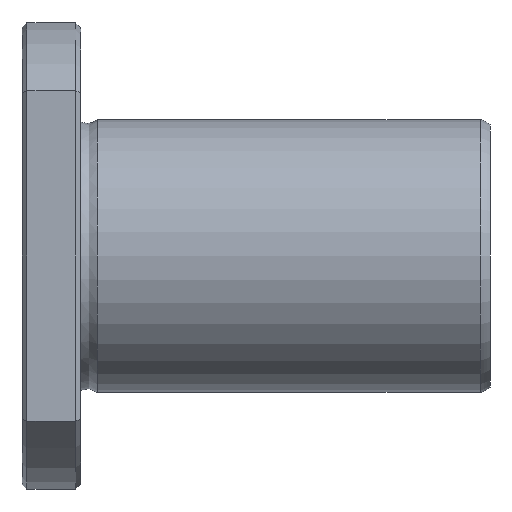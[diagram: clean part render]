
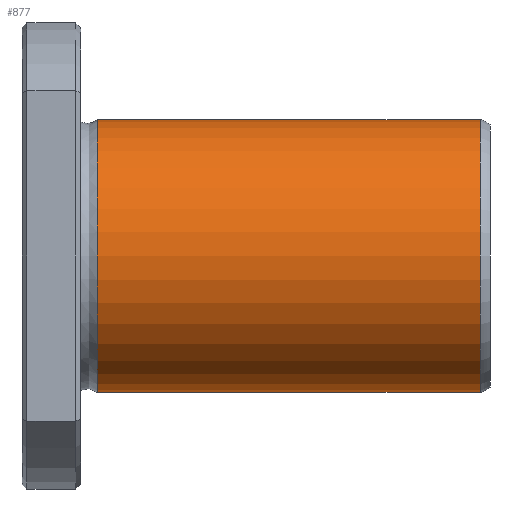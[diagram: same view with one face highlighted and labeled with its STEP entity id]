
A CAD part, front view. The second image highlights one B-rep face of the part: STEP entity #877.
In plain terms, the highlighted cylindrical face has radius 14 mm (diameter 28 mm), a full revolution.
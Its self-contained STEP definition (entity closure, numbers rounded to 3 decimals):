
#843=CARTESIAN_POINT('',(46.999,0.0,14.));
#844=VERTEX_POINT('',#843);
#845=CARTESIAN_POINT('',(46.999,0.0,0.0));
#846=DIRECTION('',(-1.0,0.0,0.0));
#847=DIRECTION('',(0.0,0.0,1.0));
#848=AXIS2_PLACEMENT_3D('',#845,#846,#847);
#849=CIRCLE('',#848,14.);
#850=EDGE_CURVE('',#844,#844,#849,.T.);
#858=CARTESIAN_POINT('',(27.359,0.0,0.0));
#859=DIRECTION('',(-1.0,0.0,0.0));
#860=DIRECTION('',(0.0,0.0,1.0));
#861=AXIS2_PLACEMENT_3D('',#858,#859,#860);
#862=CYLINDRICAL_SURFACE('',#861,14.);
#863=CARTESIAN_POINT('',(7.72,0.0,14.));
#864=VERTEX_POINT('',#863);
#865=CARTESIAN_POINT('',(7.72,0.0,0.0));
#866=DIRECTION('',(-1.0,0.0,0.0));
#867=DIRECTION('',(0.0,0.0,1.0));
#868=AXIS2_PLACEMENT_3D('',#865,#866,#867);
#869=CIRCLE('',#868,14.);
#870=EDGE_CURVE('',#864,#864,#869,.T.);
#871=ORIENTED_EDGE('',*,*,#870,.F.);
#872=EDGE_LOOP('',(#871));
#873=FACE_OUTER_BOUND('',#872,.T.);
#874=ORIENTED_EDGE('',*,*,#850,.T.);
#875=EDGE_LOOP('',(#874));
#876=FACE_BOUND('',#875,.T.);
#877=ADVANCED_FACE('',(#873,#876),#862,.T.);
